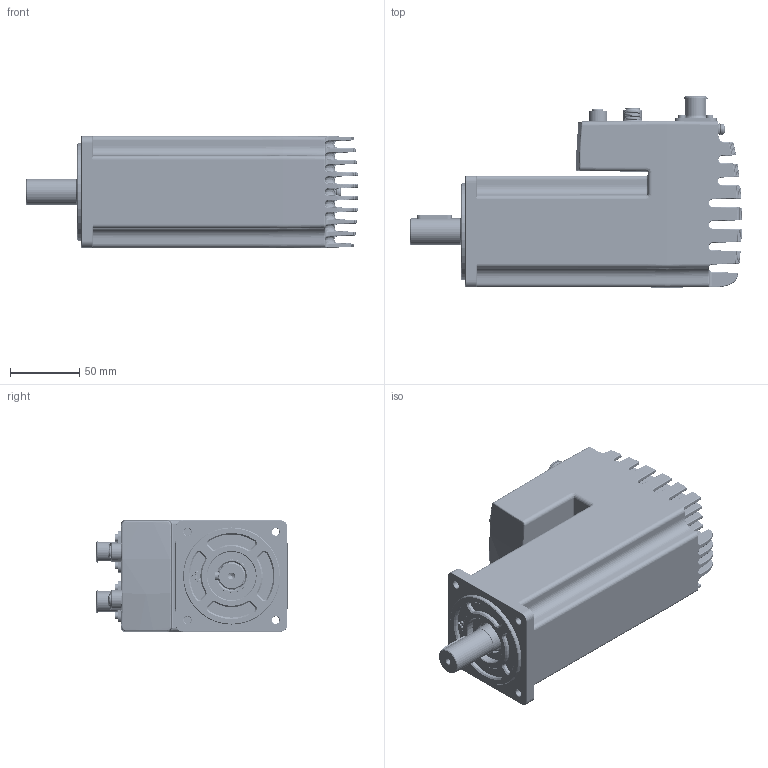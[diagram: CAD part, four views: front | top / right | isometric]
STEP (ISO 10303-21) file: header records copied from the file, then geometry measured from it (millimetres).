
FILE_DESCRIPTION((''),'2;1');
FILE_NAME('STEPPERASSY_ASM','2023-02-20T00:20:23',('Administrator'),(''),'CREO PARAMETRIC BY PTC INC, 2022014','CREO PARAMETRIC BY PTC INC, 2022014','');
FILE_SCHEMA(('AUTOMOTIVE_DESIGN { 1 0 10303 214 1 1 1 1 }'));
Length unit declared in the file: millimetre
Products named in the file (9): MAC1403_BODY; MAC802_RFIN_002_3D; MAC802_XG1; MS0551_MAC802; MAC802_XD10; MAC802_XG0; DG1; MAC800_ASM_ASM; STEPPERASSY_ASM
Assembly tree (9 placements, depth 3):
  STEPPERASSY_ASM
    MAC800_ASM_ASM
      MAC1403_BODY
      MAC802_RFIN_002_3D
      MAC802_XG1  x2
      MS0551_MAC802
      MAC802_XD10
      MAC802_XG0
      DG1
Bounding box: 239.47 x 137.89 x 80.77 mm (x, y, z)
Volume: 869187.1 mm3; surface area: 193915.7 mm2
Topology: 15 solids, 17 shells, 5940 faces, 15441 edges, 9223 vertices
Faces by surface type: plane 1826, cylinder 1366, extrusion 877, bspline 784, sphere 470, torus 446, cone 167, revolution 4
Entity records: 307611 total; most frequent: CARTESIAN_POINT 121700, ORIENTED_EDGE 29102, DIRECTION 24304, EDGE_CURVE 14551, PRESENTATION_STYLE_ASSIGNMENT 9308, STYLED_ITEM 9170, VERTEX_POINT 9052, AXIS2_PLACEMENT_3D 8581
